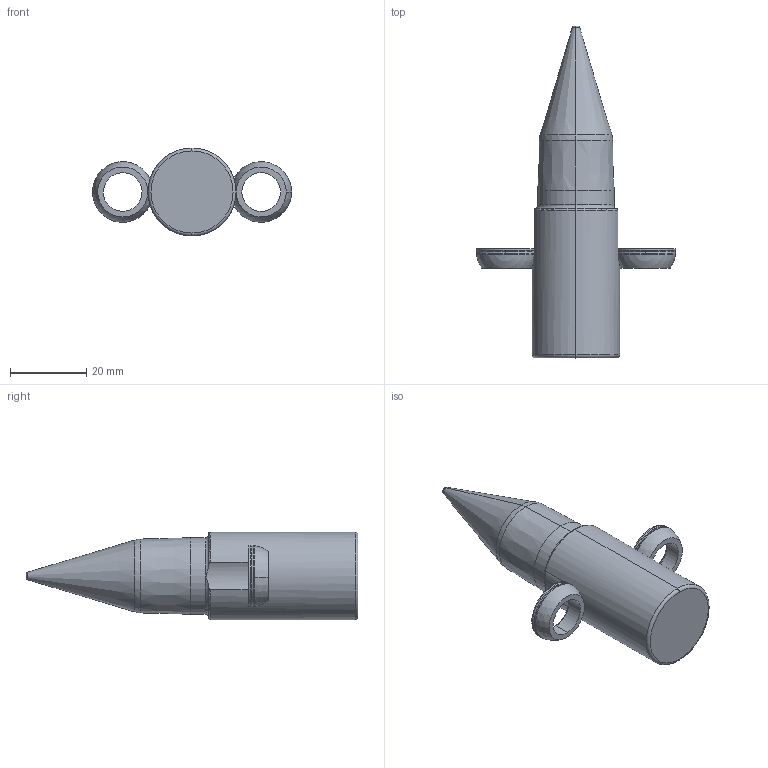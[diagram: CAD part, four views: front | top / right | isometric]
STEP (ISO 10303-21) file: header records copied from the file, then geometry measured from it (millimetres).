
FILE_DESCRIPTION (( 'STEP AP214' ), '1' );
FILE_NAME ('PA-T-20mm-3.8mm-13mm-3-A-F2.STEP', '2019-05-08T18:14:43', ( '' ), ( '' ), 'SwSTEP 2.0', 'SolidWorks 2017', '' );
FILE_SCHEMA (( 'AUTOMOTIVE_DESIGN' ));
Length unit declared in the file: inch
Products named in the file (3): SLRadiusWasher_RadiusWasher-M; SLPilot-PA-T-M_PA-T-20-3.8-13-3-A-F2; PA-T-20mm-3.8mm-13mm-3-A-F2
Assembly tree (3 placements, depth 2):
  PA-T-20mm-3.8mm-13mm-3-A-F2
    SLRadiusWasher_RadiusWasher-M  x2
    SLPilot-PA-T-M_PA-T-20-3.8-13-3-A-F2
Bounding box: 52.08 x 86.81 x 23 mm (x, y, z)
Volume: 25789.9 mm3; surface area: 6569.1 mm2
Topology: 3 solids, 3 shells, 61 faces, 136 edges, 81 vertices
Faces by surface type: torus 19, cylinder 18, cone 8, sphere 8, plane 8
Entity records: 1569 total; most frequent: CARTESIAN_POINT 348, DIRECTION 266, ORIENTED_EDGE 204, AXIS2_PLACEMENT_3D 123, EDGE_CURVE 102, CIRCLE 72, VERTEX_POINT 61, EDGE_LOOP 47
